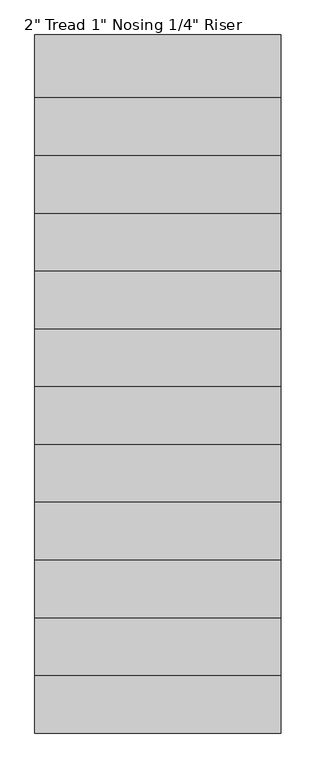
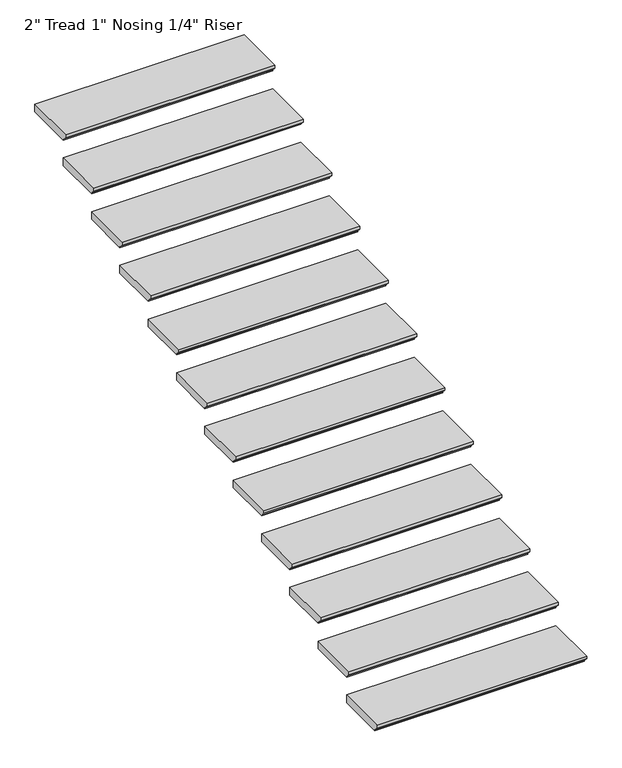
"""IFC4 building model written with IfcOpenShell, lengths in millimetres: stair flight geometry."""

from ifc_helpers import new_model, si_unit, frame, origin, place, context, project, spatial, polyline, outline, extrude, source, transform, mapped, element, save


def stair_flight_b7d4ead4(model_context):
    return source(origin(), model_context, "Body", "SweptSolid", [
        extrude(outline(polyline([(7684.657391, 2187.6923077), (8014.857391, 2187.6923077), (8014.857391, 2136.8923077), (7710.057391, 2136.8923077), (7710.057391, 2143.2423077), (7684.657391, 2168.6423077), (7684.657391, 2187.6923077)])), frame((23243.1337784, 0.0, 0.0), z_axis=(1.0, 0.0, 0.0), x_axis=(0.0, 1.0, 0.0)), (0.0, 0.0, 1.0), 1300.0),
        extrude(outline(polyline([(7989.457391, 2355.3846154), (8319.657391, 2355.3846154), (8319.657391, 2304.5846154), (8014.857391, 2304.5846154), (8014.857391, 2310.9346154), (7989.457391, 2336.3346154), (7989.457391, 2355.3846154)])), frame((23243.1337784, 0.0, 0.0), z_axis=(1.0, 0.0, 0.0), x_axis=(0.0, 1.0, 0.0)), (0.0, 0.0, 1.0), 1300.0),
        extrude(outline(polyline([(8294.257391, 2523.0769231), (8624.457391, 2523.0769231), (8624.457391, 2472.2769231), (8319.657391, 2472.2769231), (8319.657391, 2478.6269231), (8294.257391, 2504.0269231), (8294.257391, 2523.0769231)])), frame((23243.1337784, 0.0, 0.0), z_axis=(1.0, 0.0, 0.0), x_axis=(0.0, 1.0, 0.0)), (0.0, 0.0, 1.0), 1300.0),
        extrude(outline(polyline([(8599.057391, 2690.7692308), (8929.257391, 2690.7692308), (8929.257391, 2639.9692308), (8624.457391, 2639.9692308), (8624.457391, 2646.3192308), (8599.057391, 2671.7192308), (8599.057391, 2690.7692308)])), frame((23243.1337784, 0.0, 0.0), z_axis=(1.0, 0.0, 0.0), x_axis=(0.0, 1.0, 0.0)), (0.0, 0.0, 1.0), 1300.0),
        extrude(outline(polyline([(8903.857391, 2858.4615385), (9234.057391, 2858.4615385), (9234.057391, 2807.6615385), (8929.257391, 2807.6615385), (8929.257391, 2814.0115385), (8903.857391, 2839.4115385), (8903.857391, 2858.4615385)])), frame((23243.1337784, 0.0, 0.0), z_axis=(1.0, 0.0, 0.0), x_axis=(0.0, 1.0, 0.0)), (0.0, 0.0, 1.0), 1300.0),
        extrude(outline(polyline([(9208.657391, 3026.1538462), (9538.857391, 3026.1538462), (9538.857391, 2975.3538462), (9234.057391, 2975.3538462), (9234.057391, 2981.7038462), (9208.657391, 3007.1038462), (9208.657391, 3026.1538462)])), frame((23243.1337784, 0.0, 0.0), z_axis=(1.0, 0.0, 0.0), x_axis=(0.0, 1.0, 0.0)), (0.0, 0.0, 1.0), 1300.0),
        extrude(outline(polyline([(9513.457391, 3193.8461538), (9843.657391, 3193.8461538), (9843.657391, 3143.0461538), (9538.857391, 3143.0461538), (9538.857391, 3149.3961538), (9513.457391, 3174.7961538), (9513.457391, 3193.8461538)])), frame((23243.1337784, 0.0, 0.0), z_axis=(1.0, 0.0, 0.0), x_axis=(0.0, 1.0, 0.0)), (0.0, 0.0, 1.0), 1300.0),
        extrude(outline(polyline([(9818.257391, 3361.5384615), (10148.457391, 3361.5384615), (10148.457391, 3310.7384615), (9843.657391, 3310.7384615), (9843.657391, 3317.0884615), (9818.257391, 3342.4884615), (9818.257391, 3361.5384615)])), frame((23243.1337784, 0.0, 0.0), z_axis=(1.0, 0.0, 0.0), x_axis=(0.0, 1.0, 0.0)), (0.0, 0.0, 1.0), 1300.0),
        extrude(outline(polyline([(10123.057391, 3529.2307692), (10453.257391, 3529.2307692), (10453.257391, 3478.4307692), (10148.457391, 3478.4307692), (10148.457391, 3484.7807692), (10123.057391, 3510.1807692), (10123.057391, 3529.2307692)])), frame((23243.1337784, 0.0, 0.0), z_axis=(1.0, 0.0, 0.0), x_axis=(0.0, 1.0, 0.0)), (0.0, 0.0, 1.0), 1300.0),
        extrude(outline(polyline([(10427.857391, 3696.9230769), (10758.057391, 3696.9230769), (10758.057391, 3646.1230769), (10453.257391, 3646.1230769), (10453.257391, 3652.4730769), (10427.857391, 3677.8730769), (10427.857391, 3696.9230769)])), frame((23243.1337784, 0.0, 0.0), z_axis=(1.0, 0.0, 0.0), x_axis=(0.0, 1.0, 0.0)), (0.0, 0.0, 1.0), 1300.0),
        extrude(outline(polyline([(10732.657391, 3864.6153846), (11062.857391, 3864.6153846), (11062.857391, 3813.8153846), (10758.057391, 3813.8153846), (10758.057391, 3820.1653846), (10732.657391, 3845.5653846), (10732.657391, 3864.6153846)])), frame((23243.1337784, 0.0, 0.0), z_axis=(1.0, 0.0, 0.0), x_axis=(0.0, 1.0, 0.0)), (0.0, 0.0, 1.0), 1300.0),
        extrude(outline(polyline([(11037.457391, 4032.3076923), (11367.657391, 4032.3076923), (11367.657391, 3981.5076923), (11062.857391, 3981.5076923), (11062.857391, 3987.8576923), (11037.457391, 4013.2576923), (11037.457391, 4032.3076923)])), frame((23243.1337784, 0.0, 0.0), z_axis=(1.0, 0.0, 0.0), x_axis=(0.0, 1.0, 0.0)), (0.0, 0.0, 1.0), 1300.0),
    ])


if __name__ == "__main__":
    model = new_model("IFC4")
    model_context = context("Model", 3, world=origin())
    ifc_project = project(units=[si_unit("LENGTHUNIT", "METRE", prefix="MILLI")], contexts=[model_context])
    site = spatial("IfcSite", under=ifc_project)
    building = spatial("IfcBuilding", under=site)
    placement = place(None, origin())
    stair_flight_shape = stair_flight_b7d4ead4(model_context)
    element("IfcStairFlight", 1, ObjectType="2\" Tread 1\" Nosing 1/4\" Riser", at=placement, inside=building, context=model_context, shape_type="MappedRepresentation", body=[
        mapped(stair_flight_shape, transform((0.0, 0.0, 0.0), x_axis=(1.0, 0.0, 0.0), y_axis=(0.0, 1.0, 0.0), z_axis=(0.0, 0.0, 1.0))),
    ])
    save(model, "model.ifc")
